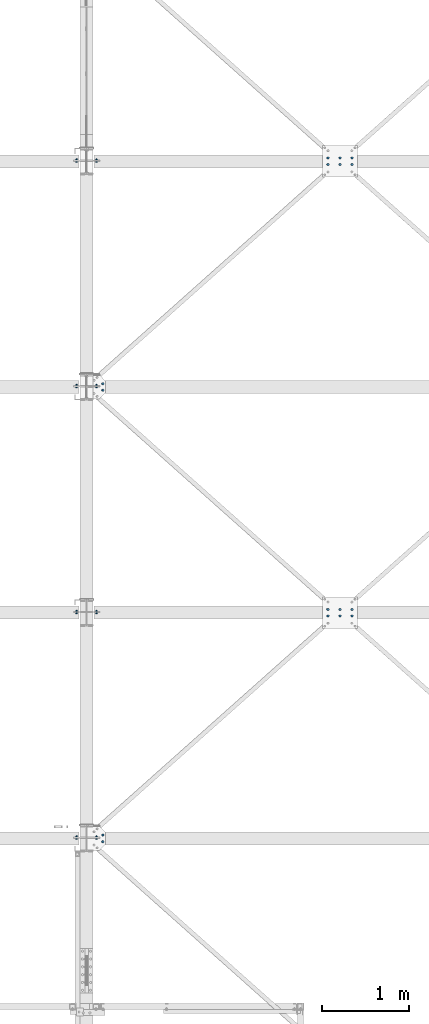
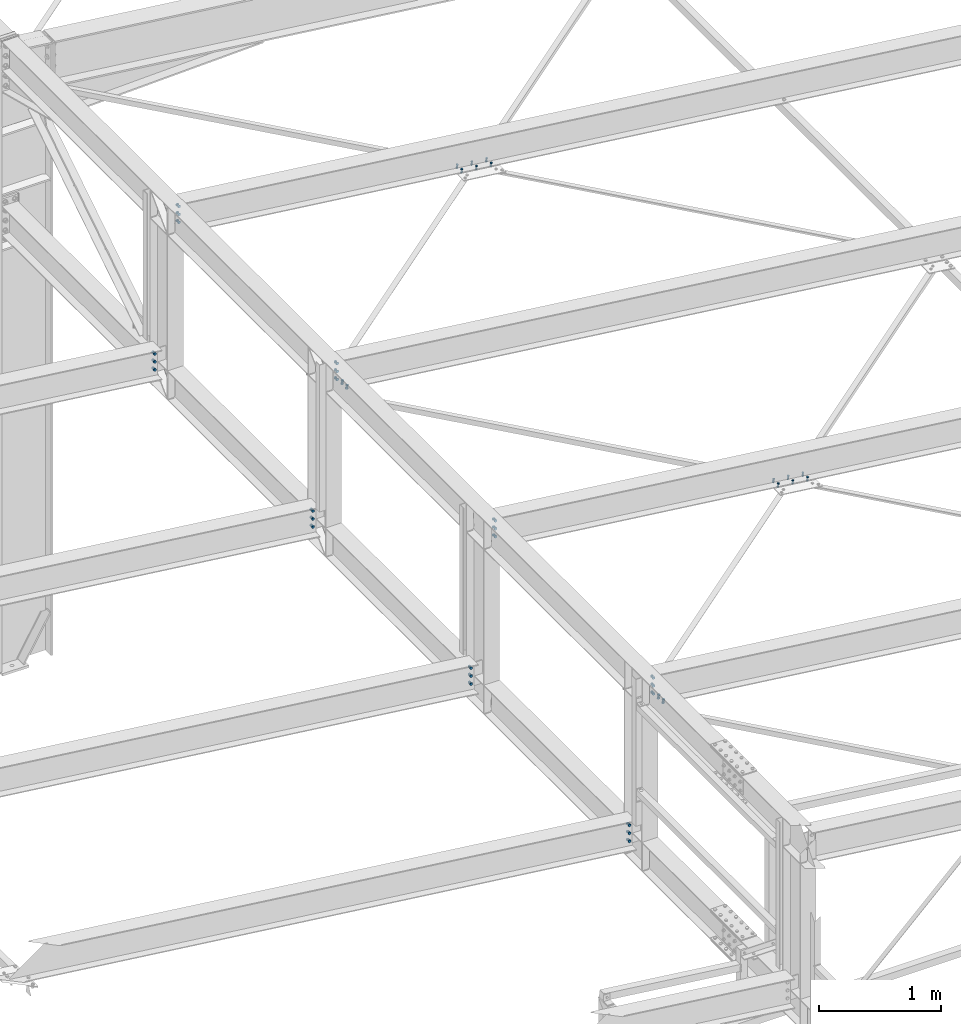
# One storey, part 258 of 3134: 12 mechanical fasteners, 8 elements without a shape of their own.
"""IFC2X3 building model written with IfcOpenShell, lengths in millimetres."""

from ifc_helpers import new_model, si_unit, frame, origin_with_axes, place, context, subcontext, project, spatial, faceted_brep, source, transform, mapped, material, type_object, element, aggregate, save


model = new_model("IFC2X3")

# Units and contexts
model_context = context("Model", 3, precision=1e-05, world=origin_with_axes())
body_context = subcontext(model_context, "Body", "Model", "MODEL_VIEW")
ifc_project = project(units=[si_unit("LENGTHUNIT", "METRE", prefix="MILLI"), si_unit("AREAUNIT", "SQUARE_METRE"), si_unit("VOLUMEUNIT", "CUBIC_METRE"), si_unit("MASSUNIT", "GRAM", prefix="KILO"), si_unit("TIMEUNIT", "SECOND"), si_unit("PLANEANGLEUNIT", "RADIAN"), si_unit("SOLIDANGLEUNIT", "STERADIAN"), si_unit("THERMODYNAMICTEMPERATUREUNIT", "DEGREE_CELSIUS"), si_unit("LUMINOUSINTENSITYUNIT", "LUMEN")], contexts=[model_context])

# Site, building, storey
site_placement = place(None, origin_with_axes())
site = spatial("IfcSite", under=ifc_project, at=site_placement, CompositionType="ELEMENT")
building_placement = place(site_placement, origin_with_axes())
building = spatial("IfcBuilding", under=site, at=building_placement, Name="Undefined", CompositionType="ELEMENT")
storey_placement = place(building_placement, origin_with_axes())
storey = spatial("IfcBuildingStorey", under=building, at=storey_placement, Name="Undefined", CompositionType="ELEMENT", Elevation=0.0)

# Assembly, mechanical fastener
assembly_1_placement = place(storey_placement, origin_with_axes())
assembly_1 = element("IfcElementAssembly", 1, at=assembly_1_placement, inside=storey, Name="300", AssemblyPlace="NOTDEFINED", PredefinedType="RIGID_FRAME")
ifc_material = material(Name="8.8")
mechanical_fastener_type = type_object("IfcMechanicalFastenerType", Name="Bolt assembly")
shared_shape_1 = source(origin_with_axes(), body_context, "Body", "Brep", [
    faceted_brep([(13.856406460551, -19.199990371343, 0.0), (6.92820323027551, -19.199990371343, 12.0), (-6.92820323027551, -19.199990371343, 12.0), (-13.856406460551, -19.199990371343, 1.69692038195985e-15), (-6.92820323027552, -19.199990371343, -12.0), (6.9282032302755, -19.199990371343, -12.0), (6.9282032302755, -9.19999037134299, -12.0), (-6.92820323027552, -9.19999037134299, -12.0), (-13.856406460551, -9.19999037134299, 1.69692038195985e-15), (-6.92820323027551, -9.19999037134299, 12.0), (6.92820323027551, -9.19999037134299, 12.0), (13.856406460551, -9.19999037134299, 0.0), (8.0, -9.19999037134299, 0.0), (6.92820323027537, -9.19999037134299, 4.00000000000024), (3.99999999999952, -9.19999037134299, 6.92820323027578), (-8.29068785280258e-13, -9.19999037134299, 8.0), (-4.00000000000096, -9.19999037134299, 6.92820323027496), (-6.9282032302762, -9.19999037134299, 3.99999999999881), (-8.0, -9.19999037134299, -1.65813757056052e-12), (-6.92820323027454, -9.19999037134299, -4.00000000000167), (-3.99999999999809, -9.19999037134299, -6.92820323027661), (2.47832457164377e-12, -9.19999037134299, -8.0), (4.00000000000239, -9.19999037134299, -6.92820323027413), (6.92820323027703, -9.19999037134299, -3.99999999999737), (6.92820323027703, 25.800009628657, -3.99999999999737), (4.00000000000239, 25.800009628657, -6.92820323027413), (2.47832457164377e-12, 25.800009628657, -8.0), (-3.99999999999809, 25.800009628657, -6.92820323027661), (-6.92820323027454, 25.800009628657, -4.00000000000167), (-8.0, 25.800009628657, -1.65813757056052e-12), (-6.9282032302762, 25.800009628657, 3.99999999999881), (-4.00000000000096, 25.800009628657, 6.92820323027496), (-8.29068785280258e-13, 25.800009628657, 8.0), (3.99999999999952, 25.800009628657, 6.92820323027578), (6.92820323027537, 25.800009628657, 4.00000000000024), (8.0, 25.800009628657, 0.0), (13.856406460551, 8.00000637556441, 0.0), (6.92820323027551, 8.00000637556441, 12.0), (-6.92820323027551, 8.00000637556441, 12.0), (-13.856406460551, 8.00000637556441, 1.69692038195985e-15), (-6.92820323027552, 8.00000637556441, -12.0), (6.9282032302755, 8.00000637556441, -12.0), (6.9282032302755, 21.0000063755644, -12.0), (-6.92820323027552, 21.0000063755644, -12.0), (-13.856406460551, 21.0000063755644, 1.69692038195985e-15), (-6.92820323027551, 21.0000063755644, 12.0), (6.92820323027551, 21.0000063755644, 12.0), (13.856406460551, 21.0000063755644, 0.0)], [[[0, 1, 2, 3, 4, 5]], [[6, 7, 8, 9, 10, 11]], [[0, 11, 10, 1]], [[1, 10, 9, 2]], [[2, 9, 8, 3]], [[3, 8, 7, 4]], [[4, 7, 6, 5]], [[5, 6, 11, 0]], [[12, 13, 14, 15, 16, 17, 18, 19, 20, 21, 22, 23]], [[24, 25, 26, 27, 28, 29, 30, 31, 32, 33, 34, 35]], [[12, 35, 34, 13]], [[13, 34, 33, 14]], [[14, 33, 32, 15]], [[15, 32, 31, 16]], [[16, 31, 30, 17]], [[17, 30, 29, 18]], [[18, 29, 28, 19]], [[19, 28, 27, 20]], [[20, 27, 26, 21]], [[21, 26, 25, 22]], [[22, 25, 24, 23]], [[23, 24, 35, 12]], [[36, 37, 38, 39, 40, 41]], [[42, 43, 44, 45, 46, 47]], [[36, 47, 46, 37]], [[37, 46, 45, 38]], [[38, 45, 44, 39]], [[39, 44, 43, 40]], [[40, 43, 42, 41]], [[41, 42, 47, 36]]]),
    faceted_brep([(9.0, -0.1, 0.0), (7.79422863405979, -0.1, 4.50000000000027), (4.49999999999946, -0.1, 7.79422863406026), (-9.3270238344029e-13, -0.1, 9.0), (-4.50000000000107, -0.1, 7.79422863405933), (-7.79422863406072, -0.1, 4.49999999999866), (-9.0, -0.1, -1.86540476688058e-12), (-7.79422863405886, -0.1, -4.50000000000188), (-4.49999999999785, -0.1, -7.79422863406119), (2.78811514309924e-12, -0.1, -9.0), (4.50000000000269, -0.1, -7.7942286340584), (7.79422863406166, -0.1, -4.49999999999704), (7.79422863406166, 8.00000000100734, -4.49999999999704), (4.50000000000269, 8.00000000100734, -7.7942286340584), (2.78811514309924e-12, 8.00000000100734, -9.0), (-4.49999999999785, 8.00000000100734, -7.79422863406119), (-7.79422863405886, 8.00000000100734, -4.50000000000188), (-9.0, 8.00000000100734, -1.86540476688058e-12), (-7.79422863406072, 8.00000000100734, 4.49999999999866), (-4.50000000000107, 8.00000000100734, 7.79422863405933), (-9.3270238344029e-13, 8.00000000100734, 9.0), (4.49999999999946, 8.00000000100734, 7.79422863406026), (7.79422863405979, 8.00000000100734, 4.50000000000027), (9.0, 8.00000000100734, 0.0), (9.0, -9.09999037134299, 0.0), (7.79422863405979, -9.09999037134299, 4.50000000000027), (4.49999999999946, -9.09999037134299, 7.79422863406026), (-9.3270238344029e-13, -9.09999037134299, 9.0), (-4.50000000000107, -9.09999037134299, 7.79422863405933), (-7.79422863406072, -9.09999037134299, 4.49999999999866), (-9.0, -9.09999037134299, -1.86540476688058e-12), (-7.79422863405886, -9.09999037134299, -4.50000000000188), (-4.49999999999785, -9.09999037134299, -7.79422863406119), (2.78811514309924e-12, -9.09999037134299, -9.0), (4.50000000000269, -9.09999037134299, -7.7942286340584), (7.79422863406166, -9.09999037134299, -4.49999999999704), (7.79422863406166, 0.100000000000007, -4.49999999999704), (4.50000000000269, 0.100000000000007, -7.7942286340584), (2.78811514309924e-12, 0.100000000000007, -9.0), (-4.49999999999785, 0.100000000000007, -7.79422863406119), (-7.79422863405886, 0.100000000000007, -4.50000000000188), (-9.0, 0.100000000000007, -1.86540476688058e-12), (-7.79422863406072, 0.100000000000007, 4.49999999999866), (-4.50000000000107, 0.100000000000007, 7.79422863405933), (-9.3270238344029e-13, 0.100000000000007, 9.0), (4.49999999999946, 0.100000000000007, 7.79422863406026), (7.79422863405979, 0.100000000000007, 4.50000000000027), (9.0, 0.100000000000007, 0.0)], [[[0, 1, 2, 3, 4, 5, 6, 7, 8, 9, 10, 11]], [[12, 13, 14, 15, 16, 17, 18, 19, 20, 21, 22, 23]], [[0, 23, 22, 1]], [[1, 22, 21, 2]], [[2, 21, 20, 3]], [[3, 20, 19, 4]], [[4, 19, 18, 5]], [[5, 18, 17, 6]], [[6, 17, 16, 7]], [[7, 16, 15, 8]], [[8, 15, 14, 9]], [[9, 14, 13, 10]], [[10, 13, 12, 11]], [[11, 12, 23, 0]], [[24, 25, 26, 27, 28, 29, 30, 31, 32, 33, 34, 35]], [[36, 37, 38, 39, 40, 41, 42, 43, 44, 45, 46, 47]], [[24, 47, 46, 25]], [[25, 46, 45, 26]], [[26, 45, 44, 27]], [[27, 44, 43, 28]], [[28, 43, 42, 29]], [[29, 42, 41, 30]], [[30, 41, 40, 31]], [[31, 40, 39, 32]], [[32, 39, 38, 33]], [[33, 38, 37, 34]], [[34, 37, 36, 35]], [[35, 36, 47, 24]]]),
])
mechanical_fastener_1_placement = place(assembly_1_placement, frame((56064.2248161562, 35087.9995130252, 5496.68063428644), z_axis=(0.992623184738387, 1.63108538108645e-05, -0.12124031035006), x_axis=(1.62000016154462e-05, -0.999999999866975, -1.90000018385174e-06)))
mechanical_fastener_1 = element("IfcMechanicalFastener", 2, at=mechanical_fastener_1_placement, type_object=mechanical_fastener_type, material=ifc_material, Name="Bolt assembly", NominalDiameter=16.0, NominalLength=35.0, context=body_context, shape_type="MappedRepresentation", body=[
    mapped(shared_shape_1, transform((0.0, 0.0, 0.0))),
    mapped(shared_shape_1, transform((76.0, 0.0, 0.0))),
])

assembly_2_placement = place(storey_placement, origin_with_axes())
assembly_2 = element("IfcElementAssembly", 3, at=assembly_2_placement, inside=storey, Name="300", AssemblyPlace="NOTDEFINED", PredefinedType="RIGID_FRAME")
mechanical_fastener_2_placement = place(assembly_2_placement, frame((56064.2248161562, 29887.9995130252, 5496.68063428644), z_axis=(0.992623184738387, 1.63108538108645e-05, -0.12124031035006), x_axis=(1.62000016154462e-05, -0.999999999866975, -1.90000018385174e-06)))
mechanical_fastener_2 = element("IfcMechanicalFastener", 4, at=mechanical_fastener_2_placement, type_object=mechanical_fastener_type, material=ifc_material, Name="Bolt assembly", NominalDiameter=16.0, NominalLength=35.0, context=body_context, shape_type="MappedRepresentation", body=[
    mapped(shared_shape_1, transform((0.0, 0.0, 0.0))),
    mapped(shared_shape_1, transform((76.0, 0.0, 0.0))),
])

assembly_3_placement = place(storey_placement, origin_with_axes())
assembly_3 = element("IfcElementAssembly", 5, at=assembly_3_placement, inside=storey, Name="300", AssemblyPlace="NOTDEFINED", PredefinedType="RIGID_FRAME")
shared_shape_2 = source(origin_with_axes(), body_context, "Body", "Brep", [
    faceted_brep([(13.856406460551, -13.0499999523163, 0.0), (6.92820323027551, -13.0499999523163, 12.0), (-6.92820323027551, -13.0499999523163, 12.0), (-13.856406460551, -13.0499999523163, 1.69692038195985e-15), (-6.92820323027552, -13.0499999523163, -12.0), (6.9282032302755, -13.0499999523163, -12.0), (6.9282032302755, -3.04999995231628, -12.0), (-6.92820323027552, -3.04999995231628, -12.0), (-13.856406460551, -3.04999995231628, 1.69692038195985e-15), (-6.92820323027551, -3.04999995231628, 12.0), (6.92820323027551, -3.04999995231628, 12.0), (13.856406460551, -3.04999995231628, 0.0), (8.0, -3.04999995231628, 0.0), (6.92820323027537, -3.04999995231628, 4.00000000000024), (3.99999999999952, -3.04999995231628, 6.92820323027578), (-8.29068785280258e-13, -3.04999995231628, 8.0), (-4.00000000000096, -3.04999995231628, 6.92820323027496), (-6.9282032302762, -3.04999995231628, 3.99999999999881), (-8.0, -3.04999995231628, -1.65813757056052e-12), (-6.92820323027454, -3.04999995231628, -4.00000000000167), (-3.99999999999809, -3.04999995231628, -6.92820323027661), (2.47832457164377e-12, -3.04999995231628, -8.0), (4.00000000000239, -3.04999995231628, -6.92820323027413), (6.92820323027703, -3.04999995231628, -3.99999999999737), (6.92820323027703, 31.9500000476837, -3.99999999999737), (4.00000000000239, 31.9500000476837, -6.92820323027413), (2.47832457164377e-12, 31.9500000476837, -8.0), (-3.99999999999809, 31.9500000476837, -6.92820323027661), (-6.92820323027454, 31.9500000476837, -4.00000000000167), (-8.0, 31.9500000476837, -1.65813757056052e-12), (-6.9282032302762, 31.9500000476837, 3.99999999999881), (-4.00000000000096, 31.9500000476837, 6.92820323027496), (-8.29068785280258e-13, 31.9500000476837, 8.0), (3.99999999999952, 31.9500000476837, 6.92820323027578), (6.92820323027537, 31.9500000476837, 4.00000000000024), (8.0, 31.9500000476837, 0.0), (13.856406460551, 13.0500000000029, 0.0), (6.92820323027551, 13.0500000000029, 12.0), (-6.92820323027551, 13.0500000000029, 12.0), (-13.856406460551, 13.0500000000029, 1.69692038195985e-15), (-6.92820323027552, 13.0500000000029, -12.0), (6.9282032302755, 13.0500000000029, -12.0), (6.9282032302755, 26.0500000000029, -12.0), (-6.92820323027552, 26.0500000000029, -12.0), (-13.856406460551, 26.0500000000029, 1.69692038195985e-15), (-6.92820323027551, 26.0500000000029, 12.0), (6.92820323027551, 26.0500000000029, 12.0), (13.856406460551, 26.0500000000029, 0.0)], [[[0, 1, 2, 3, 4, 5]], [[6, 7, 8, 9, 10, 11]], [[0, 11, 10, 1]], [[1, 10, 9, 2]], [[2, 9, 8, 3]], [[3, 8, 7, 4]], [[4, 7, 6, 5]], [[5, 6, 11, 0]], [[12, 13, 14, 15, 16, 17, 18, 19, 20, 21, 22, 23]], [[24, 25, 26, 27, 28, 29, 30, 31, 32, 33, 34, 35]], [[12, 35, 34, 13]], [[13, 34, 33, 14]], [[14, 33, 32, 15]], [[15, 32, 31, 16]], [[16, 31, 30, 17]], [[17, 30, 29, 18]], [[18, 29, 28, 19]], [[19, 28, 27, 20]], [[20, 27, 26, 21]], [[21, 26, 25, 22]], [[22, 25, 24, 23]], [[23, 24, 35, 12]], [[36, 37, 38, 39, 40, 41]], [[42, 43, 44, 45, 46, 47]], [[36, 47, 46, 37]], [[37, 46, 45, 38]], [[38, 45, 44, 39]], [[39, 44, 43, 40]], [[40, 43, 42, 41]], [[41, 42, 47, 36]]]),
    faceted_brep([(9.0, 2.95000000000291, 0.0), (7.79422863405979, 2.95000000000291, 4.50000000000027), (4.49999999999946, 2.95000000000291, 7.79422863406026), (-9.3270238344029e-13, 2.95000000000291, 9.0), (-4.50000000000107, 2.95000000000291, 7.79422863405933), (-7.79422863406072, 2.95000000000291, 4.49999999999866), (-9.0, 2.95000000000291, -1.86540476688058e-12), (-7.79422863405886, 2.95000000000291, -4.50000000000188), (-4.49999999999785, 2.95000000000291, -7.79422863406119), (2.78811514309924e-12, 2.95000000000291, -9.0), (4.50000000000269, 2.95000000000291, -7.7942286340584), (7.79422863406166, 2.95000000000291, -4.49999999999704), (7.79422863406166, 13.0500000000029, -4.49999999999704), (4.50000000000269, 13.0500000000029, -7.7942286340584), (2.78811514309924e-12, 13.0500000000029, -9.0), (-4.49999999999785, 13.0500000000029, -7.79422863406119), (-7.79422863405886, 13.0500000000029, -4.50000000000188), (-9.0, 13.0500000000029, -1.86540476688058e-12), (-7.79422863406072, 13.0500000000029, 4.49999999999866), (-4.50000000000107, 13.0500000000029, 7.79422863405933), (-9.3270238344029e-13, 13.0500000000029, 9.0), (4.49999999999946, 13.0500000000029, 7.79422863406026), (7.79422863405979, 13.0500000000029, 4.50000000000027), (9.0, 13.0500000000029, 0.0), (9.0, -2.94999995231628, 0.0), (7.79422863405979, -2.94999995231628, 4.50000000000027), (4.49999999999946, -2.94999995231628, 7.79422863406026), (-9.3270238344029e-13, -2.94999995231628, 9.0), (-4.50000000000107, -2.94999995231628, 7.79422863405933), (-7.79422863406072, -2.94999995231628, 4.49999999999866), (-9.0, -2.94999995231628, -1.86540476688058e-12), (-7.79422863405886, -2.94999995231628, -4.50000000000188), (-4.49999999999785, -2.94999995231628, -7.79422863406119), (2.78811514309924e-12, -2.94999995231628, -9.0), (4.50000000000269, -2.94999995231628, -7.7942286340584), (7.79422863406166, -2.94999995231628, -4.49999999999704), (7.79422863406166, 3.14999995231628, -4.49999999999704), (4.50000000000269, 3.14999995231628, -7.7942286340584), (2.78811514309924e-12, 3.14999995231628, -9.0), (-4.49999999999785, 3.14999995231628, -7.79422863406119), (-7.79422863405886, 3.14999995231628, -4.50000000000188), (-9.0, 3.14999995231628, -1.86540476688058e-12), (-7.79422863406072, 3.14999995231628, 4.49999999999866), (-4.50000000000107, 3.14999995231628, 7.79422863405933), (-9.3270238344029e-13, 3.14999995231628, 9.0), (4.49999999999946, 3.14999995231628, 7.79422863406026), (7.79422863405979, 3.14999995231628, 4.50000000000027), (9.0, 3.14999995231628, 0.0)], [[[0, 1, 2, 3, 4, 5, 6, 7, 8, 9, 10, 11]], [[12, 13, 14, 15, 16, 17, 18, 19, 20, 21, 22, 23]], [[0, 23, 22, 1]], [[1, 22, 21, 2]], [[2, 21, 20, 3]], [[3, 20, 19, 4]], [[4, 19, 18, 5]], [[5, 18, 17, 6]], [[6, 17, 16, 7]], [[7, 16, 15, 8]], [[8, 15, 14, 9]], [[9, 14, 13, 10]], [[10, 13, 12, 11]], [[11, 12, 23, 0]], [[24, 25, 26, 27, 28, 29, 30, 31, 32, 33, 34, 35]], [[36, 37, 38, 39, 40, 41, 42, 43, 44, 45, 46, 47]], [[24, 47, 46, 25]], [[25, 46, 45, 26]], [[26, 45, 44, 27]], [[27, 44, 43, 28]], [[28, 43, 42, 29]], [[29, 42, 41, 30]], [[30, 41, 40, 31]], [[31, 40, 39, 32]], [[32, 39, 38, 33]], [[33, 38, 37, 34]], [[34, 37, 36, 35]], [[35, 36, 47, 24]]]),
])
mechanical_fastener_3_placement = place(assembly_3_placement, frame((55760.0, 37650.0, 4337.44269270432), z_axis=(1.0, 0.0, 0.0), x_axis=(0.0, 0.0, -1.0)))
mechanical_fastener_3 = element("IfcMechanicalFastener", 6, at=mechanical_fastener_3_placement, type_object=mechanical_fastener_type, material=ifc_material, Name="Bolt assembly", NominalDiameter=16.0, NominalLength=35.0, context=body_context, shape_type="MappedRepresentation", body=[
    mapped(shared_shape_2, transform((0.0, 0.0, 0.0))),
    mapped(shared_shape_2, transform((80.0, 0.0, 0.0))),
    mapped(shared_shape_2, transform((160.0, 0.0, 0.0))),
])
aggregate(assembly_3, [mechanical_fastener_3])

assembly_4_placement = place(storey_placement, origin_with_axes())
assembly_4 = element("IfcElementAssembly", 7, at=assembly_4_placement, inside=storey, Name="300", AssemblyPlace="NOTDEFINED", PredefinedType="RIGID_FRAME")
mechanical_fastener_4_placement = place(assembly_4_placement, frame((55760.0, 35050.0, 4337.44269270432), z_axis=(1.0, 0.0, 0.0), x_axis=(0.0, 0.0, -1.0)))
mechanical_fastener_4 = element("IfcMechanicalFastener", 8, at=mechanical_fastener_4_placement, type_object=mechanical_fastener_type, material=ifc_material, Name="Bolt assembly", NominalDiameter=16.0, NominalLength=35.0, context=body_context, shape_type="MappedRepresentation", body=[
    mapped(shared_shape_2, transform((0.0, 0.0, 0.0))),
    mapped(shared_shape_2, transform((80.0, 0.0, 0.0))),
    mapped(shared_shape_2, transform((160.0, 0.0, 0.0))),
])
aggregate(assembly_4, [mechanical_fastener_4])

assembly_5_placement = place(storey_placement, origin_with_axes())
assembly_5 = element("IfcElementAssembly", 9, at=assembly_5_placement, inside=storey, Name="300", AssemblyPlace="NOTDEFINED", PredefinedType="RIGID_FRAME")
mechanical_fastener_5_placement = place(assembly_5_placement, frame((55760.0, 32450.0, 4337.44269270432), z_axis=(1.0, 0.0, 0.0), x_axis=(0.0, 0.0, -1.0)))
mechanical_fastener_5 = element("IfcMechanicalFastener", 10, at=mechanical_fastener_5_placement, type_object=mechanical_fastener_type, material=ifc_material, Name="Bolt assembly", NominalDiameter=16.0, NominalLength=35.0, context=body_context, shape_type="MappedRepresentation", body=[
    mapped(shared_shape_2, transform((0.0, 0.0, 0.0))),
    mapped(shared_shape_2, transform((80.0, 0.0, 0.0))),
    mapped(shared_shape_2, transform((160.0, 0.0, 0.0))),
])
aggregate(assembly_5, [mechanical_fastener_5])

assembly_6_placement = place(storey_placement, origin_with_axes())
assembly_6 = element("IfcElementAssembly", 11, at=assembly_6_placement, inside=storey, Name="300", AssemblyPlace="NOTDEFINED", PredefinedType="RIGID_FRAME")
mechanical_fastener_6_placement = place(assembly_6_placement, frame((55760.0, 29850.0, 4337.44269270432), z_axis=(1.0, 0.0, 0.0), x_axis=(0.0, 0.0, -1.0)))
mechanical_fastener_6 = element("IfcMechanicalFastener", 12, at=mechanical_fastener_6_placement, type_object=mechanical_fastener_type, material=ifc_material, Name="Bolt assembly", NominalDiameter=16.0, NominalLength=35.0, context=body_context, shape_type="MappedRepresentation", body=[
    mapped(shared_shape_2, transform((0.0, 0.0, 0.0))),
    mapped(shared_shape_2, transform((80.0, 0.0, 0.0))),
    mapped(shared_shape_2, transform((160.0, 0.0, 0.0))),
])
aggregate(assembly_6, [mechanical_fastener_6])

# Mechanical fastener
mechanical_fastener_7_placement = place(assembly_2_placement, frame((55990.0, 29850.0, 5735.35014950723), z_axis=(1.0, 0.0, 0.0), x_axis=(0.0, 0.0, -1.0)))
mechanical_fastener_7 = element("IfcMechanicalFastener", 13, at=mechanical_fastener_7_placement, type_object=mechanical_fastener_type, material=ifc_material, Name="Bolt assembly", NominalDiameter=16.0, NominalLength=35.0, context=body_context, shape_type="MappedRepresentation", body=[
    mapped(shared_shape_2, transform((0.0, 0.0, 0.0))),
    mapped(shared_shape_2, transform((80.0, 0.0, 0.0))),
    mapped(shared_shape_2, transform((160.0, 0.0, 0.0))),
])

aggregate(assembly_2, [mechanical_fastener_2, mechanical_fastener_7])

# Assembly, mechanical fastener
assembly_7_placement = place(storey_placement, origin_with_axes())
assembly_7 = element("IfcElementAssembly", 14, at=assembly_7_placement, inside=storey, Name="300", AssemblyPlace="NOTDEFINED", PredefinedType="RIGID_FRAME")
mechanical_fastener_8_placement = place(assembly_7_placement, frame((55990.0, 32450.0, 5735.35014950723), z_axis=(1.0, 0.0, 0.0), x_axis=(0.0, 0.0, -1.0)))
mechanical_fastener_8 = element("IfcMechanicalFastener", 15, at=mechanical_fastener_8_placement, type_object=mechanical_fastener_type, material=ifc_material, Name="Bolt assembly", NominalDiameter=16.0, NominalLength=35.0, context=body_context, shape_type="MappedRepresentation", body=[
    mapped(shared_shape_2, transform((0.0, 0.0, 0.0))),
    mapped(shared_shape_2, transform((80.0, 0.0, 0.0))),
    mapped(shared_shape_2, transform((160.0, 0.0, 0.0))),
])

# Mechanical fastener
mechanical_fastener_9_placement = place(assembly_1_placement, frame((55990.0, 35050.0, 5735.35014950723), z_axis=(1.0, 0.0, 0.0), x_axis=(0.0, 0.0, -1.0)))
mechanical_fastener_9 = element("IfcMechanicalFastener", 16, at=mechanical_fastener_9_placement, type_object=mechanical_fastener_type, material=ifc_material, Name="Bolt assembly", NominalDiameter=16.0, NominalLength=35.0, context=body_context, shape_type="MappedRepresentation", body=[
    mapped(shared_shape_2, transform((0.0, 0.0, 0.0))),
    mapped(shared_shape_2, transform((80.0, 0.0, 0.0))),
    mapped(shared_shape_2, transform((160.0, 0.0, 0.0))),
])

aggregate(assembly_1, [mechanical_fastener_1, mechanical_fastener_9])

# Assembly, mechanical fasteners
assembly_8_placement = place(storey_placement, origin_with_axes())
assembly_8 = element("IfcElementAssembly", 17, at=assembly_8_placement, inside=storey, Name="300", AssemblyPlace="NOTDEFINED", PredefinedType="RIGID_FRAME")
mechanical_fastener_10_placement = place(assembly_8_placement, frame((55990.0, 37650.0, 5735.35014950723), z_axis=(1.0, 0.0, 0.0), x_axis=(0.0, 0.0, -1.0)))
mechanical_fastener_10 = element("IfcMechanicalFastener", 18, at=mechanical_fastener_10_placement, type_object=mechanical_fastener_type, material=ifc_material, Name="Bolt assembly", NominalDiameter=16.0, NominalLength=35.0, context=body_context, shape_type="MappedRepresentation", body=[
    mapped(shared_shape_2, transform((0.0, 0.0, 0.0))),
    mapped(shared_shape_2, transform((80.0, 0.0, 0.0))),
    mapped(shared_shape_2, transform((160.0, 0.0, 0.0))),
])
shared_shape_3 = source(origin_with_axes(), body_context, "Body", "Brep", [
    faceted_brep([(10.9696551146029, -17.1999998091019, 0.0), (5.48482755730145, -17.1999998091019, 9.5), (-5.48482755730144, -17.1999998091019, 9.5), (-10.9696551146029, -17.1999998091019, 1.34339530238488e-15), (-5.48482755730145, -17.1999998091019, -9.5), (5.48482755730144, -17.1999998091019, -9.50000000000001), (5.48482755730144, -9.19999978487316, -9.50000000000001), (-5.48482755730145, -9.19999978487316, -9.5), (-10.9696551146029, -9.19999978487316, 1.34339530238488e-15), (-5.48482755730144, -9.19999978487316, 9.5), (5.48482755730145, -9.19999978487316, 9.5), (10.9696551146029, -9.19999978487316, 0.0), (6.0, -9.19999978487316, 0.0), (5.19615242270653, -9.19999978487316, 3.00000000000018), (2.99999999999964, -9.19999978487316, 5.19615242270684), (-6.21801588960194e-13, -9.19999978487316, 6.0), (-3.00000000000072, -9.19999978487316, 5.19615242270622), (-5.19615242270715, -9.19999978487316, 2.9999999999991), (-6.0, -9.19999978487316, -1.24360317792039e-12), (-5.19615242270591, -9.19999978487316, -3.00000000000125), (-2.99999999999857, -9.19999978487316, -5.19615242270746), (1.85874342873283e-12, -9.19999978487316, -6.0), (3.00000000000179, -9.19999978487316, -5.1961524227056), (5.19615242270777, -9.19999978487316, -2.99999999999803), (5.19615242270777, 25.8000002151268, -2.99999999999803), (3.00000000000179, 25.8000002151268, -5.1961524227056), (1.85874342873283e-12, 25.8000002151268, -6.0), (-2.99999999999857, 25.8000002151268, -5.19615242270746), (-5.19615242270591, 25.8000002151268, -3.00000000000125), (-6.0, 25.8000002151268, -1.24360317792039e-12), (-5.19615242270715, 25.8000002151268, 2.9999999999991), (-3.00000000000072, 25.8000002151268, 5.19615242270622), (-6.21801588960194e-13, 25.8000002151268, 6.0), (2.99999999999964, 25.8000002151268, 5.19615242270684), (5.19615242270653, 25.8000002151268, 3.00000000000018), (6.0, 25.8000002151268, 0.0), (10.9696551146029, 8.0, 0.0), (5.48482755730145, 8.0, 9.5), (-5.48482755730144, 8.0, 9.5), (-10.9696551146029, 8.0, 1.34339530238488e-15), (-5.48482755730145, 8.0, -9.5), (5.48482755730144, 8.0, -9.50000000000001), (5.48482755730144, 18.0, -9.50000000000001), (-5.48482755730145, 18.0, -9.5), (-10.9696551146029, 18.0, 1.34339530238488e-15), (-5.48482755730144, 18.0, 9.5), (5.48482755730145, 18.0, 9.5), (10.9696551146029, 18.0, 0.0)], [[[0, 1, 2, 3, 4, 5]], [[6, 7, 8, 9, 10, 11]], [[0, 11, 10, 1]], [[1, 10, 9, 2]], [[2, 9, 8, 3]], [[3, 8, 7, 4]], [[4, 7, 6, 5]], [[5, 6, 11, 0]], [[12, 13, 14, 15, 16, 17, 18, 19, 20, 21, 22, 23]], [[24, 25, 26, 27, 28, 29, 30, 31, 32, 33, 34, 35]], [[12, 35, 34, 13]], [[13, 34, 33, 14]], [[14, 33, 32, 15]], [[15, 32, 31, 16]], [[16, 31, 30, 17]], [[17, 30, 29, 18]], [[18, 29, 28, 19]], [[19, 28, 27, 20]], [[20, 27, 26, 21]], [[21, 26, 25, 22]], [[22, 25, 24, 23]], [[23, 24, 35, 12]], [[36, 37, 38, 39, 40, 41]], [[42, 43, 44, 45, 46, 47]], [[36, 47, 46, 37]], [[37, 46, 45, 38]], [[38, 45, 44, 39]], [[39, 44, 43, 40]], [[40, 43, 42, 41]], [[41, 42, 47, 36]]]),
    faceted_brep([(7.0, -0.1, 0.0), (6.06217782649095, -0.1, 3.50000000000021), (3.49999999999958, -0.1, 6.06217782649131), (-7.25435187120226e-13, -0.1, 7.0), (-3.50000000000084, -0.1, 6.06217782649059), (-6.06217782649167, -0.1, 3.49999999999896), (-7.0, -0.1, -1.45087037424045e-12), (-6.06217782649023, -0.1, -3.50000000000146), (-3.49999999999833, -0.1, -6.06217782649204), (2.1685340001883e-12, -0.1, -7.0), (3.50000000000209, -0.1, -6.06217782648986), (6.0621778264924, -0.1, -3.4999999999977), (6.0621778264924, 8.0000000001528, -3.4999999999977), (3.50000000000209, 8.0000000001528, -6.06217782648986), (2.1685340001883e-12, 8.0000000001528, -7.0), (-3.49999999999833, 8.0000000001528, -6.06217782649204), (-6.06217782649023, 8.0000000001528, -3.50000000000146), (-7.0, 8.0000000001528, -1.45087037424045e-12), (-6.06217782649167, 8.0000000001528, 3.49999999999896), (-3.50000000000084, 8.0000000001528, 6.06217782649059), (-7.25435187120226e-13, 8.0000000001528, 7.0), (3.49999999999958, 8.0000000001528, 6.06217782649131), (6.06217782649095, 8.0000000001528, 3.50000000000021), (7.0, 8.0000000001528, 0.0), (7.0, -9.09999980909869, 0.0), (6.06217782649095, -9.09999980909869, 3.50000000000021), (3.49999999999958, -9.09999980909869, 6.06217782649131), (-7.25435187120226e-13, -9.09999980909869, 7.0), (-3.50000000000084, -9.09999980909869, 6.06217782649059), (-6.06217782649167, -9.09999980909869, 3.49999999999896), (-7.0, -9.09999980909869, -1.45087037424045e-12), (-6.06217782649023, -9.09999980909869, -3.50000000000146), (-3.49999999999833, -9.09999980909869, -6.06217782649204), (2.1685340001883e-12, -9.09999980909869, -7.0), (3.50000000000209, -9.09999980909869, -6.06217782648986), (6.0621778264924, -9.09999980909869, -3.4999999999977), (6.0621778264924, 0.0999999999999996, -3.4999999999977), (3.50000000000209, 0.0999999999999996, -6.06217782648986), (2.1685340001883e-12, 0.0999999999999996, -7.0), (-3.49999999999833, 0.0999999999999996, -6.06217782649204), (-6.06217782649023, 0.0999999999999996, -3.50000000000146), (-7.0, 0.0999999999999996, -1.45087037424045e-12), (-6.06217782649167, 0.0999999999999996, 3.49999999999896), (-3.50000000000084, 0.0999999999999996, 6.06217782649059), (-7.25435187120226e-13, 0.0999999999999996, 7.0), (3.49999999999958, 0.0999999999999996, 6.06217782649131), (6.06217782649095, 0.0999999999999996, 3.50000000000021), (7.0, 0.0999999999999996, 0.0)], [[[0, 1, 2, 3, 4, 5, 6, 7, 8, 9, 10, 11]], [[12, 13, 14, 15, 16, 17, 18, 19, 20, 21, 22, 23]], [[0, 23, 22, 1]], [[1, 22, 21, 2]], [[2, 21, 20, 3]], [[3, 20, 19, 4]], [[4, 19, 18, 5]], [[5, 18, 17, 6]], [[6, 17, 16, 7]], [[7, 16, 15, 8]], [[8, 15, 14, 9]], [[9, 14, 13, 10]], [[10, 13, 12, 11]], [[11, 12, 23, 0]], [[24, 25, 26, 27, 28, 29, 30, 31, 32, 33, 34, 35]], [[36, 37, 38, 39, 40, 41, 42, 43, 44, 45, 46, 47]], [[24, 47, 46, 25]], [[25, 46, 45, 26]], [[26, 45, 44, 27]], [[27, 44, 43, 28]], [[28, 43, 42, 29]], [[29, 42, 41, 30]], [[30, 41, 40, 31]], [[31, 40, 39, 32]], [[32, 39, 38, 33]], [[33, 38, 37, 34]], [[34, 37, 36, 35]], [[35, 36, 47, 24]]]),
])
mechanical_fastener_11_placement = place(assembly_8_placement, frame((58933.2022067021, 37650.0, 5146.25993625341), z_axis=(0.0, -1.0, 0.0), x_axis=(-0.992623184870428, 0.0, 0.121240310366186)))
mechanical_fastener_11 = element("IfcMechanicalFastener", 19, at=mechanical_fastener_11_placement, type_object=mechanical_fastener_type, material=ifc_material, Name="Bolt assembly", NominalDiameter=12.0, NominalLength=35.0, context=body_context, shape_type="MappedRepresentation", body=[
    mapped(shared_shape_3, transform((0.0, 0.0, -38.0))),
    mapped(shared_shape_3, transform((140.000000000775, 5.85714587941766e-10, -38.0))),
    mapped(shared_shape_3, transform((279.999999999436, -4.74756234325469e-10, -38.0))),
    mapped(shared_shape_3, transform((0.0, 0.0, 38.0))),
    mapped(shared_shape_3, transform((140.000000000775, 5.85714587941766e-10, 38.0))),
    mapped(shared_shape_3, transform((279.999999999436, -4.74756234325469e-10, 38.0))),
])
aggregate(assembly_8, [mechanical_fastener_11, mechanical_fastener_10])

# Mechanical fastener
mechanical_fastener_12_placement = place(assembly_7_placement, frame((58933.2022067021, 32450.0, 5146.25993625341), z_axis=(0.0, -1.0, 0.0), x_axis=(-0.992623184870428, 0.0, 0.121240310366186)))
mechanical_fastener_12 = element("IfcMechanicalFastener", 20, at=mechanical_fastener_12_placement, type_object=mechanical_fastener_type, material=ifc_material, Name="Bolt assembly", NominalDiameter=12.0, NominalLength=35.0, context=body_context, shape_type="MappedRepresentation", body=[
    mapped(shared_shape_3, transform((0.0, 0.0, -38.0))),
    mapped(shared_shape_3, transform((140.000000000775, 5.85714587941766e-10, -38.0))),
    mapped(shared_shape_3, transform((279.999999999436, -4.74756234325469e-10, -38.0))),
    mapped(shared_shape_3, transform((0.0, 0.0, 38.0))),
    mapped(shared_shape_3, transform((140.000000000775, 5.85714587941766e-10, 38.0))),
    mapped(shared_shape_3, transform((279.999999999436, -4.74756234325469e-10, 38.0))),
])

aggregate(assembly_7, [mechanical_fastener_12, mechanical_fastener_8])

save(model, "model.ifc")
